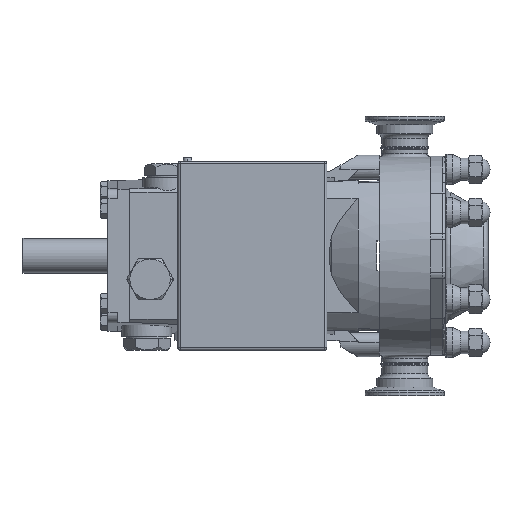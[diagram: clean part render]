
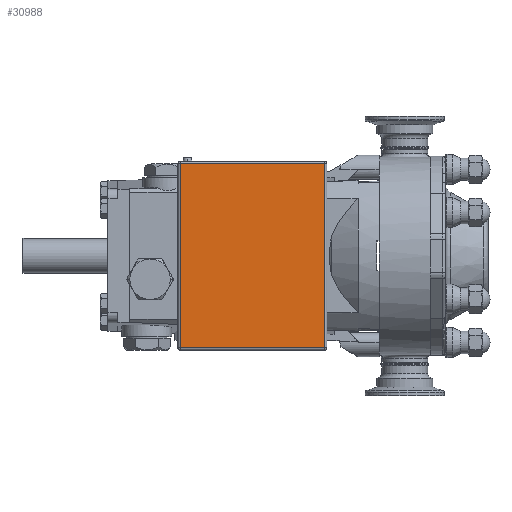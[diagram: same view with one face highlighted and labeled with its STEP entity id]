
A CAD part, top view. The second image highlights one B-rep face of the part: STEP entity #30988.
In plain terms, the highlighted planar face has unit normal (0, 0, 1).
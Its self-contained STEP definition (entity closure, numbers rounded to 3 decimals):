
#1045 = DIRECTION ( 'NONE',  ( 1., 0., 0. ) ) ;
#1099 = VECTOR ( 'NONE', #1045, 1000. ) ;
#2899 = LINE ( 'NONE', #9560, #1099 ) ;
#3047 = LINE ( 'NONE', #33674, #3160 ) ;
#3093 = LINE ( 'NONE', #31838, #24552 ) ;
#3160 = VECTOR ( 'NONE', #7168, 1000. ) ;
#3830 = AXIS2_PLACEMENT_3D ( 'NONE', #30761, #10623, #7949 ) ;
#5212 = CARTESIAN_POINT ( 'NONE',  ( -76.779, -45.139, 120.391 ) ) ;
#5789 = VECTOR ( 'NONE', #24120, 1000. ) ;
#6112 = VERTEX_POINT ( 'NONE', #23126 ) ;
#7168 = DIRECTION ( 'NONE',  ( -1., 0., 0. ) ) ;
#7949 = DIRECTION ( 'NONE',  ( 1., 0., 0. ) ) ;
#9560 = CARTESIAN_POINT ( 'NONE',  ( 16.693, -45.139, 120.391 ) ) ;
#9841 = EDGE_CURVE ( 'NONE', #14402, #15895, #2899, .T. ) ;
#10623 = DIRECTION ( 'NONE',  ( 0., 0., 1. ) ) ;
#10742 = ORIENTED_EDGE ( 'NONE', *, *, #33066, .T. ) ;
#10869 = PLANE ( 'NONE',  #3830 ) ;
#14147 = DIRECTION ( 'NONE',  ( 0., 1., 0. ) ) ;
#14402 = VERTEX_POINT ( 'NONE', #5212 ) ;
#15895 = VERTEX_POINT ( 'NONE', #23233 ) ;
#17632 = EDGE_CURVE ( 'NONE', #15895, #31484, #3093, .T. ) ;
#19336 = EDGE_CURVE ( 'NONE', #6112, #14402, #33169, .T. ) ;
#21303 = EDGE_LOOP ( 'NONE', ( #35042, #36285, #35559, #10742 ) ) ;
#23126 = CARTESIAN_POINT ( 'NONE',  ( -76.779, 72.463, 120.391 ) ) ;
#23233 = CARTESIAN_POINT ( 'NONE',  ( 15.169, -45.139, 120.391 ) ) ;
#24120 = DIRECTION ( 'NONE',  ( 0., -1., 0. ) ) ;
#24325 = CARTESIAN_POINT ( 'NONE',  ( 15.169, 72.463, 120.391 ) ) ;
#24552 = VECTOR ( 'NONE', #14147, 1000. ) ;
#29898 = FACE_OUTER_BOUND ( 'NONE', #21303, .T. ) ;
#30761 = CARTESIAN_POINT ( 'NONE',  ( 16.693, -46.663, 120.391 ) ) ;
#30988 = ADVANCED_FACE ( 'NONE', ( #29898 ), #10869, .T. ) ;
#31484 = VERTEX_POINT ( 'NONE', #24325 ) ;
#31838 = CARTESIAN_POINT ( 'NONE',  ( 15.169, 73.987, 120.391 ) ) ;
#33066 = EDGE_CURVE ( 'NONE', #31484, #6112, #3047, .T. ) ;
#33169 = LINE ( 'NONE', #35544, #5789 ) ;
#33674 = CARTESIAN_POINT ( 'NONE',  ( 16.693, 72.463, 120.391 ) ) ;
#35042 = ORIENTED_EDGE ( 'NONE', *, *, #19336, .T. ) ;
#35544 = CARTESIAN_POINT ( 'NONE',  ( -76.779, -46.663, 120.391 ) ) ;
#35559 = ORIENTED_EDGE ( 'NONE', *, *, #17632, .T. ) ;
#36285 = ORIENTED_EDGE ( 'NONE', *, *, #9841, .T. ) ;
